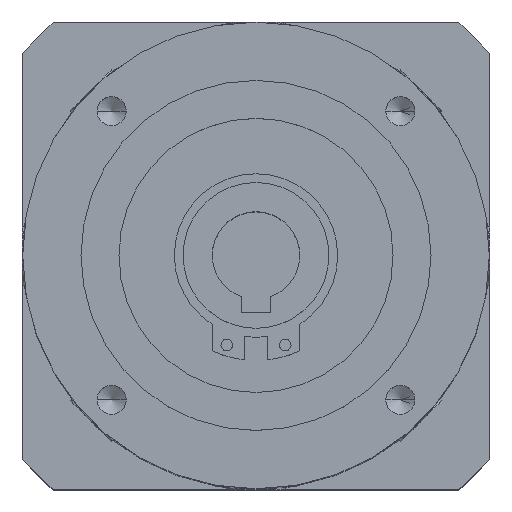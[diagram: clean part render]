
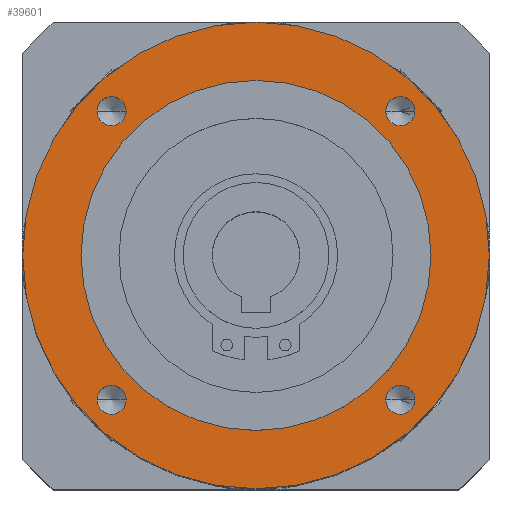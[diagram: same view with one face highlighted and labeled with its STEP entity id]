
A CAD part, top view. The second image highlights one B-rep face of the part: STEP entity #39601.
In plain terms, the highlighted planar face has unit normal (0, 0, 1).
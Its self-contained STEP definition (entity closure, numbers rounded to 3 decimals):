
#231 = EDGE_CURVE ( 'NONE', #25355, #33404, #41545, .T. ) ;
#463 = CARTESIAN_POINT ( 'NONE',  ( 0., 0., 15. ) ) ;
#1026 = VERTEX_POINT ( 'NONE', #13711 ) ;
#1174 = CARTESIAN_POINT ( 'NONE',  ( 27.249, -24.749, 15. ) ) ;
#1454 = FACE_BOUND ( 'NONE', #3190, .T. ) ;
#1671 = CARTESIAN_POINT ( 'NONE',  ( 0., 0., 15. ) ) ;
#1833 = VERTEX_POINT ( 'NONE', #1174 ) ;
#1987 = DIRECTION ( 'NONE',  ( 1., 0., 0. ) ) ;
#2758 = CARTESIAN_POINT ( 'NONE',  ( -24.749, -24.749, 15. ) ) ;
#3190 = EDGE_LOOP ( 'NONE', ( #19233, #14804 ) ) ;
#3901 = EDGE_CURVE ( 'NONE', #41874, #36864, #29839, .T. ) ;
#3951 = VERTEX_POINT ( 'NONE', #28457 ) ;
#4042 = DIRECTION ( 'NONE',  ( 1., 0., 0. ) ) ;
#4215 = AXIS2_PLACEMENT_3D ( 'NONE', #18994, #44007, #22622 ) ;
#4228 = AXIS2_PLACEMENT_3D ( 'NONE', #44801, #23480, #1987 ) ;
#4368 = VERTEX_POINT ( 'NONE', #6877 ) ;
#5271 = DIRECTION ( 'NONE',  ( 1., 0., 0. ) ) ;
#5574 = ORIENTED_EDGE ( 'NONE', *, *, #25550, .F. ) ;
#6036 = AXIS2_PLACEMENT_3D ( 'NONE', #23489, #23535, #23541 ) ;
#6337 = DIRECTION ( 'NONE',  ( 1., 0., 0. ) ) ;
#6877 = CARTESIAN_POINT ( 'NONE',  ( 22.249, -24.749, 15. ) ) ;
#7434 = CARTESIAN_POINT ( 'NONE',  ( 27.249, 24.749, 15. ) ) ;
#7875 = CARTESIAN_POINT ( 'NONE',  ( -22.249, 24.749, 15. ) ) ;
#8619 = CARTESIAN_POINT ( 'NONE',  ( 24.749, -24.749, 15. ) ) ;
#9719 = DIRECTION ( 'NONE',  ( 0., 0., 1. ) ) ;
#10082 = VERTEX_POINT ( 'NONE', #31865 ) ;
#10298 = CARTESIAN_POINT ( 'NONE',  ( -27.249, 24.749, 15. ) ) ;
#10324 = DIRECTION ( 'NONE',  ( 0., 0., 1. ) ) ;
#10515 = AXIS2_PLACEMENT_3D ( 'NONE', #8619, #33657, #12180 ) ;
#10796 = DIRECTION ( 'NONE',  ( 0., 0., 1. ) ) ;
#10968 = FACE_BOUND ( 'NONE', #27614, .T. ) ;
#12077 = FACE_BOUND ( 'NONE', #16814, .T. ) ;
#12180 = DIRECTION ( 'NONE',  ( 1., 0., 0. ) ) ;
#13153 = FACE_OUTER_BOUND ( 'NONE', #37572, .T. ) ;
#13443 = AXIS2_PLACEMENT_3D ( 'NONE', #463, #25543, #4042 ) ;
#13711 = CARTESIAN_POINT ( 'NONE',  ( 40., 0., 15. ) ) ;
#14533 = CIRCLE ( 'NONE', #32436, 40. ) ;
#14804 = ORIENTED_EDGE ( 'NONE', *, *, #35653, .F. ) ;
#15230 = CIRCLE ( 'NONE', #29702, 30. ) ;
#15682 = VERTEX_POINT ( 'NONE', #40598 ) ;
#16201 = ORIENTED_EDGE ( 'NONE', *, *, #16749, .F. ) ;
#16271 = CIRCLE ( 'NONE', #13443, 40. ) ;
#16567 = DIRECTION ( 'NONE',  ( 0., 0., -1. ) ) ;
#16749 = EDGE_CURVE ( 'NONE', #15682, #33722, #27640, .T. ) ;
#16814 = EDGE_LOOP ( 'NONE', ( #31189, #46188 ) ) ;
#16835 = PLANE ( 'NONE',  #26553 ) ;
#16931 = EDGE_CURVE ( 'NONE', #36864, #41874, #22048, .T. ) ;
#17206 = ORIENTED_EDGE ( 'NONE', *, *, #29525, .F. ) ;
#17242 = EDGE_CURVE ( 'NONE', #4368, #1833, #42715, .T. ) ;
#18994 = CARTESIAN_POINT ( 'NONE',  ( 0., 0., 15. ) ) ;
#19233 = ORIENTED_EDGE ( 'NONE', *, *, #231, .F. ) ;
#20259 = ORIENTED_EDGE ( 'NONE', *, *, #45917, .F. ) ;
#20442 = DIRECTION ( 'NONE',  ( -1., 0., 0. ) ) ;
#20460 = FACE_BOUND ( 'NONE', #40190, .T. ) ;
#20471 = CIRCLE ( 'NONE', #43195, 2.5 ) ;
#21277 = VERTEX_POINT ( 'NONE', #35521 ) ;
#21607 = ORIENTED_EDGE ( 'NONE', *, *, #3901, .F. ) ;
#22048 = CIRCLE ( 'NONE', #28232, 2.5 ) ;
#22349 = CIRCLE ( 'NONE', #34355, 2.5 ) ;
#22622 = DIRECTION ( 'NONE',  ( 1., 0., 0. ) ) ;
#23480 = DIRECTION ( 'NONE',  ( 0., 0., 1. ) ) ;
#23489 = CARTESIAN_POINT ( 'NONE',  ( 24.749, 24.749, 15. ) ) ;
#23535 = DIRECTION ( 'NONE',  ( 0., 0., 1. ) ) ;
#23541 = DIRECTION ( 'NONE',  ( 1., 0., 0. ) ) ;
#24208 = CARTESIAN_POINT ( 'NONE',  ( -30., 0., 15. ) ) ;
#24283 = EDGE_CURVE ( 'NONE', #1026, #3951, #16271, .T. ) ;
#25158 = CIRCLE ( 'NONE', #4228, 2.5 ) ;
#25355 = VERTEX_POINT ( 'NONE', #7875 ) ;
#25543 = DIRECTION ( 'NONE',  ( 0., 0., -1. ) ) ;
#25550 = EDGE_CURVE ( 'NONE', #3951, #1026, #14533, .T. ) ;
#26103 = EDGE_CURVE ( 'NONE', #10082, #21277, #26327, .T. ) ;
#26327 = CIRCLE ( 'NONE', #30682, 2.5 ) ;
#26553 = AXIS2_PLACEMENT_3D ( 'NONE', #27515, #41911, #20442 ) ;
#26757 = DIRECTION ( 'NONE',  ( 0., 0., 1. ) ) ;
#27515 = CARTESIAN_POINT ( 'NONE',  ( 0., 52.5, 15. ) ) ;
#27614 = EDGE_LOOP ( 'NONE', ( #45959, #21607 ) ) ;
#27640 = CIRCLE ( 'NONE', #4215, 30. ) ;
#27816 = DIRECTION ( 'NONE',  ( 0., 0., 1. ) ) ;
#28232 = AXIS2_PLACEMENT_3D ( 'NONE', #31179, #9719, #34762 ) ;
#28457 = CARTESIAN_POINT ( 'NONE',  ( -40., 0., 15. ) ) ;
#29525 = EDGE_CURVE ( 'NONE', #1833, #4368, #20471, .T. ) ;
#29702 = AXIS2_PLACEMENT_3D ( 'NONE', #1671, #26757, #5271 ) ;
#29839 = CIRCLE ( 'NONE', #6036, 2.5 ) ;
#30052 = FACE_BOUND ( 'NONE', #43189, .T. ) ;
#30682 = AXIS2_PLACEMENT_3D ( 'NONE', #2758, #27816, #6337 ) ;
#31179 = CARTESIAN_POINT ( 'NONE',  ( 24.749, 24.749, 15. ) ) ;
#31189 = ORIENTED_EDGE ( 'NONE', *, *, #26103, .F. ) ;
#31786 = CARTESIAN_POINT ( 'NONE',  ( 24.749, -24.749, 15. ) ) ;
#31865 = CARTESIAN_POINT ( 'NONE',  ( -22.249, -24.749, 15. ) ) ;
#32243 = CARTESIAN_POINT ( 'NONE',  ( -24.749, 24.749, 15. ) ) ;
#32436 = AXIS2_PLACEMENT_3D ( 'NONE', #38043, #16567, #41652 ) ;
#32853 = ORIENTED_EDGE ( 'NONE', *, *, #24283, .F. ) ;
#33404 = VERTEX_POINT ( 'NONE', #10298 ) ;
#33589 = AXIS2_PLACEMENT_3D ( 'NONE', #36558, #36517, #36418 ) ;
#33657 = DIRECTION ( 'NONE',  ( 0., 0., 1. ) ) ;
#33722 = VERTEX_POINT ( 'NONE', #24208 ) ;
#34355 = AXIS2_PLACEMENT_3D ( 'NONE', #32243, #10796, #35846 ) ;
#34762 = DIRECTION ( 'NONE',  ( 1., 0., 0. ) ) ;
#35383 = DIRECTION ( 'NONE',  ( 1., 0., 0. ) ) ;
#35521 = CARTESIAN_POINT ( 'NONE',  ( -27.249, -24.749, 15. ) ) ;
#35653 = EDGE_CURVE ( 'NONE', #33404, #25355, #22349, .T. ) ;
#35846 = DIRECTION ( 'NONE',  ( 1., 0., 0. ) ) ;
#35924 = EDGE_CURVE ( 'NONE', #21277, #10082, #25158, .T. ) ;
#36418 = DIRECTION ( 'NONE',  ( 1., 0., 0. ) ) ;
#36517 = DIRECTION ( 'NONE',  ( 0., 0., 1. ) ) ;
#36558 = CARTESIAN_POINT ( 'NONE',  ( -24.749, 24.749, 15. ) ) ;
#36864 = VERTEX_POINT ( 'NONE', #7434 ) ;
#37572 = EDGE_LOOP ( 'NONE', ( #32853, #5574 ) ) ;
#38043 = CARTESIAN_POINT ( 'NONE',  ( 0., 0., 15. ) ) ;
#39601 = ADVANCED_FACE ( 'NONE', ( #13153, #30052, #12077, #20460, #10968, #1454 ), #16835, .F. ) ;
#40190 = EDGE_LOOP ( 'NONE', ( #17206, #44768 ) ) ;
#40382 = CARTESIAN_POINT ( 'NONE',  ( 22.249, 24.749, 15. ) ) ;
#40598 = CARTESIAN_POINT ( 'NONE',  ( 30., 0., 15. ) ) ;
#41545 = CIRCLE ( 'NONE', #33589, 2.5 ) ;
#41652 = DIRECTION ( 'NONE',  ( 1., 0., 0. ) ) ;
#41874 = VERTEX_POINT ( 'NONE', #40382 ) ;
#41911 = DIRECTION ( 'NONE',  ( 0., 0., -1. ) ) ;
#42715 = CIRCLE ( 'NONE', #10515, 2.5 ) ;
#43189 = EDGE_LOOP ( 'NONE', ( #16201, #20259 ) ) ;
#43195 = AXIS2_PLACEMENT_3D ( 'NONE', #31786, #10324, #35383 ) ;
#44007 = DIRECTION ( 'NONE',  ( 0., 0., 1. ) ) ;
#44768 = ORIENTED_EDGE ( 'NONE', *, *, #17242, .F. ) ;
#44801 = CARTESIAN_POINT ( 'NONE',  ( -24.749, -24.749, 15. ) ) ;
#45917 = EDGE_CURVE ( 'NONE', #33722, #15682, #15230, .T. ) ;
#45959 = ORIENTED_EDGE ( 'NONE', *, *, #16931, .F. ) ;
#46188 = ORIENTED_EDGE ( 'NONE', *, *, #35924, .F. ) ;
